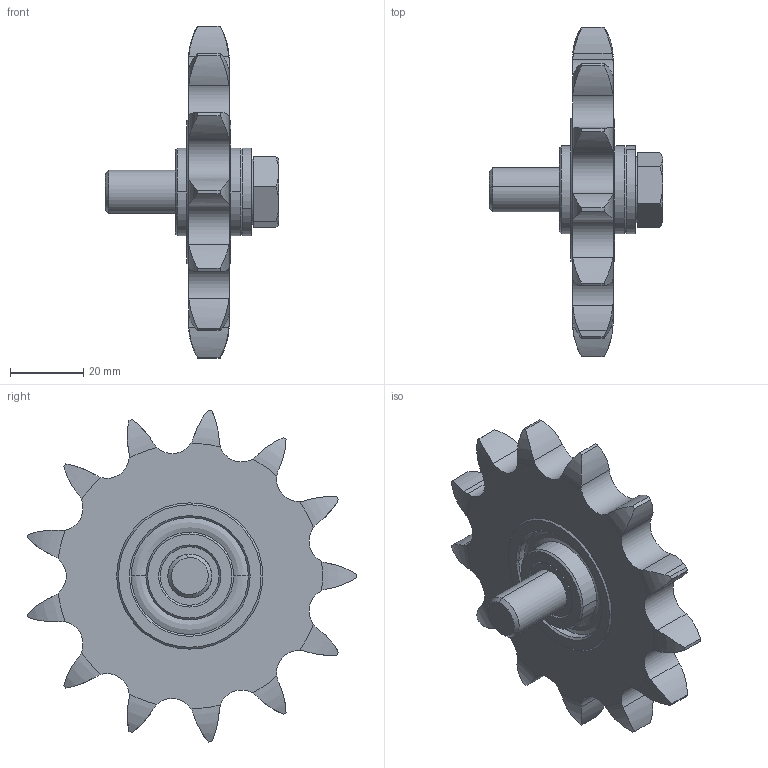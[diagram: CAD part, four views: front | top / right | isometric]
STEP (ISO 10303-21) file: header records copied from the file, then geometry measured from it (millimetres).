
FILE_DESCRIPTION (( 'STEP AP203' ), '1' );
FILE_NAME ('3-4 x 7-16 Z13 TN cod. 30019013.STEP', '2017-07-27T13:20:51', ( '' ), ( '' ), 'SwSTEP 2.0', 'SolidWorks 2016', '' );
FILE_SCHEMA (( 'CONFIG_CONTROL_DESIGN' ));
Length unit declared in the file: millimetre
Products named in the file (6): 3-4 x 7-16 Z13_Chain wheel ISO - 13Z 12B-1 --13SA40.0N; 3-4 x 7-16 Z13 TN cod. 30019013; DS.KIT TN 16; Washer ISO 7089 - 12_Washer ISO 7089 - 12; CU TN 40-16-18.3; ISO 4017 - M12 x 40-C_ISO 4017 - M12 x 40-C
Assembly tree (5 placements, depth 2):
  3-4 x 7-16 Z13 TN cod. 30019013
    3-4 x 7-16 Z13_Chain wheel ISO - 13Z 12B-1 --13SA40.0N
    CU TN 40-16-18.3
    DS.KIT TN 16
    ISO 4017 - M12 x 40-C_ISO 4017 - M12 x 40-C
    Washer ISO 7089 - 12_Washer ISO 7089 - 12
Bounding box: 47.5 x 90.13 x 90.79 mm (x, y, z)
Volume: 57435 mm3; surface area: 23072.8 mm2
Topology: 5 solids, 5 shells, 166 faces, 417 edges, 264 vertices
Faces by surface type: cylinder 85, torus 32, plane 25, cone 24
Entity records: 5993 total; most frequent: CARTESIAN_POINT 1465, ORIENTED_EDGE 834, DIRECTION 817, EDGE_CURVE 417, AXIS2_PLACEMENT_3D 348, VERTEX_POINT 264, EDGE_LOOP 177, CIRCLE 174
